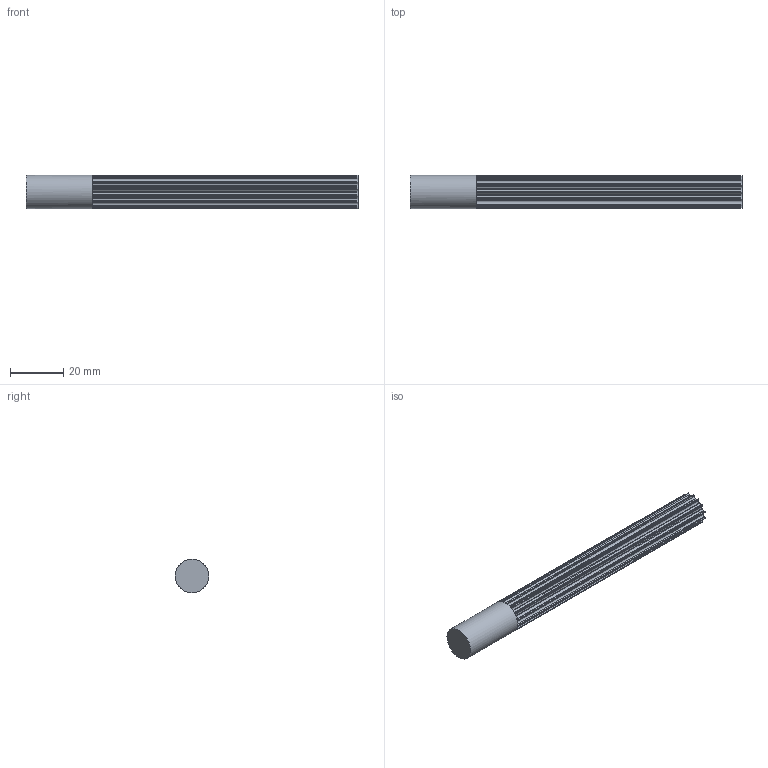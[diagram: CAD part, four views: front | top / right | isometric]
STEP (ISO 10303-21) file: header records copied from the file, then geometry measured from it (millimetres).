
FILE_DESCRIPTION( ( 'STEP AP214' ), '1' );
FILE_NAME( 'C:/Users/StangenbergN/Desktop/Steps Zahnriemenräder/K166_HTD-Zahnwellen/17091400.stp', '2019-06-06T09:33:25', ( '' ), ( '' ), ' ', 'PARTsolutions', ' ' );
FILE_SCHEMA( ( 'AUTOMOTIVE_DESIGN { 1 0 10303 214 1 1 1 1 }' ) );
Length unit declared in the file: millimetre
Products named in the file (1): _17091400
Bounding box: 125 x 12.61 x 12.61 mm (x, y, z)
Volume: 12728 mm3; surface area: 6581.1 mm2
Topology: 1 solids, 1 shells, 115 faces, 339 edges, 226 vertices
Faces by surface type: plane 58, cylinder 57
Full cylindrical faces by diameter (mm): 12.61 x1
Entity records: 4816 total; most frequent: DIRECTION 710, CARTESIAN_POINT 678, ORIENTED_EDGE 674, EDGE_CURVE 337, AXIS2_PLACEMENT_3D 257, VERTEX_POINT 225, LINE 196, VECTOR 196
